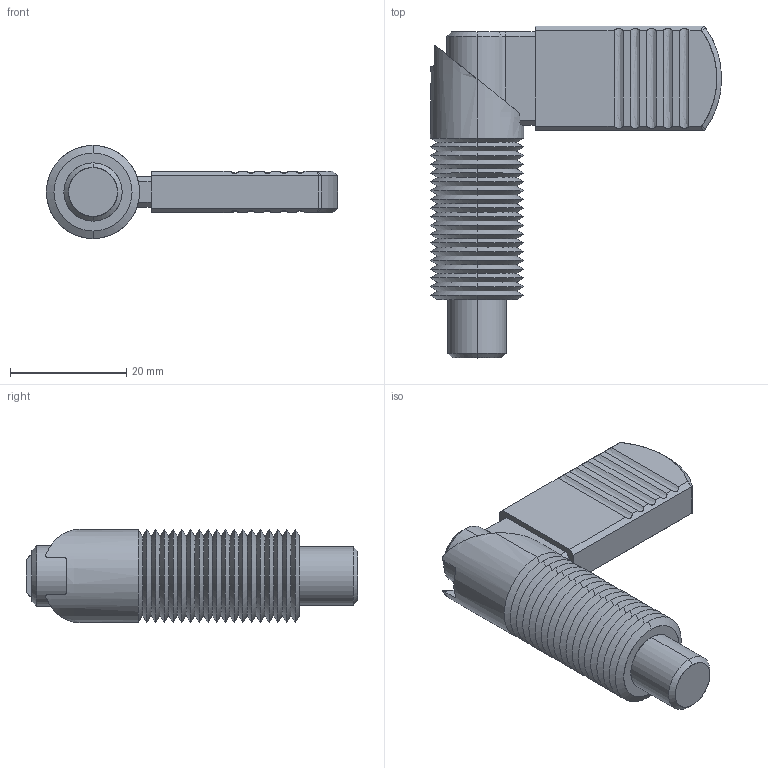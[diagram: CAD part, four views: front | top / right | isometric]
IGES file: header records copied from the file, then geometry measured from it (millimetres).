
Start section: SolidWorks IGES file using analytic representation for surfaces
Global section: file name: C:\Documents and Settings\IANO\My Documents\Wix and Auto CAD Work\CAD Models\Parametric Models\Wix Models\30000\32500_v2\32500_v2_20160309_IGES\32500.W0359.igs; native system: SolidWorks 2009; preprocessor: SolidWorks 2009; author: IANO; date: 160630.164507; units: millimetre
Bounding box: 50 x 57 x 16 mm (x, y, z)
Surface area: 10316 mm2 (no closed solid volume)
Topology: 0 solids, 0 shells, 204 faces, 1905 edges, 1905 vertices
Faces by surface type: revolution 147, bspline 57
